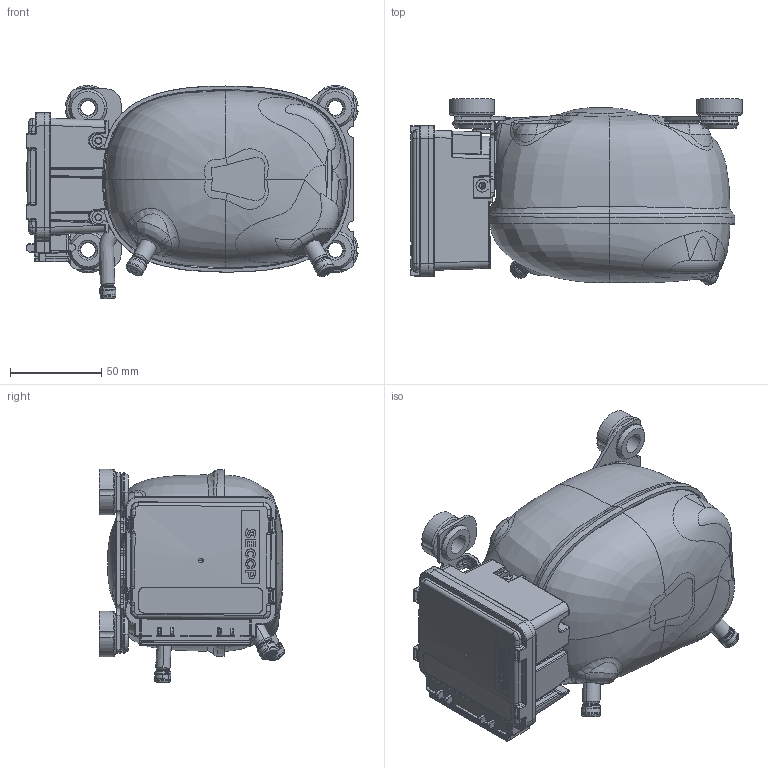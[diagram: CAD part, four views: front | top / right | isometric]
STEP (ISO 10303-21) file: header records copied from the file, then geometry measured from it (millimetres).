
FILE_DESCRIPTION((''),'2;1');
FILE_NAME('109Z0200_GROMMETS_ASM','2018-07-02T',('cn6559'),(''),'CREO PARAMETRIC BY PTC INC, 2015380','CREO PARAMETRIC BY PTC INC, 2015380','');
FILE_SCHEMA(('CONFIG_CONTROL_DESIGN'));
Length unit declared in the file: millimetre
Products named in the file (20): MSBR-93_1_1; MSBR-31_1_1; MSBR-30_1_1; MSBR-29_1_1; MSBR-28_1_1; MSBR-27_1_1; MSBR-5_2_1; MSBR-4_2_1; MSBR-3_2_1; MSBR-1_2_1; 117-3615_1_1; GROMMET-118-3661_1; 109Z0200_ASM_ASM_1_ASM_1_ASM; _109Z0200_ASM_1_1_1; 105B4248_1_1; 105B4247_1_1; 109Z0200_ASM_ASM_ASM_1_ASM_1_AS_ASM; 109Z0250_101N2100_ASM_1_ASM; 101N2100_CONTROLLER_ASM; 109Z0200_GROMMETS_ASM
Assembly tree (22 placements, depth 5):
  109Z0200_GROMMETS_ASM
    109Z0200_ASM_ASM_1_ASM_1_ASM
      MSBR-93_1_1
      MSBR-31_1_1
      MSBR-30_1_1
      MSBR-29_1_1
      MSBR-28_1_1
      MSBR-27_1_1
      MSBR-5_2_1
      MSBR-4_2_1
      MSBR-3_2_1
      MSBR-1_2_1
      117-3615_1_1
      GROMMET-118-3661_1  x4
    101N2100_CONTROLLER_ASM
      109Z0250_101N2100_ASM_1_ASM
        109Z0200_ASM_ASM_ASM_1_ASM_1_AS_ASM
          _109Z0200_ASM_1_1_1
          105B4248_1_1
          105B4247_1_1
Bounding box: 182.39 x 102.03 x 117.16 mm (x, y, z)
Volume: 207277.6 mm3; surface area: 188171.3 mm2
Topology: 17 solids, 17 shells, 5542 faces, 14560 edges, 9077 vertices
Faces by surface type: plane 2845, cylinder 1108, bspline 721, torus 431, cone 270, sphere 141, extrusion 22, revolution 4
Entity records: 234201 total; most frequent: CARTESIAN_POINT 106462, ORIENTED_EDGE 28412, DIRECTION 23644, EDGE_CURVE 14206, VECTOR 9018, LINE 8996, VERTEX_POINT 8951, AXIS2_PLACEMENT_3D 7311
